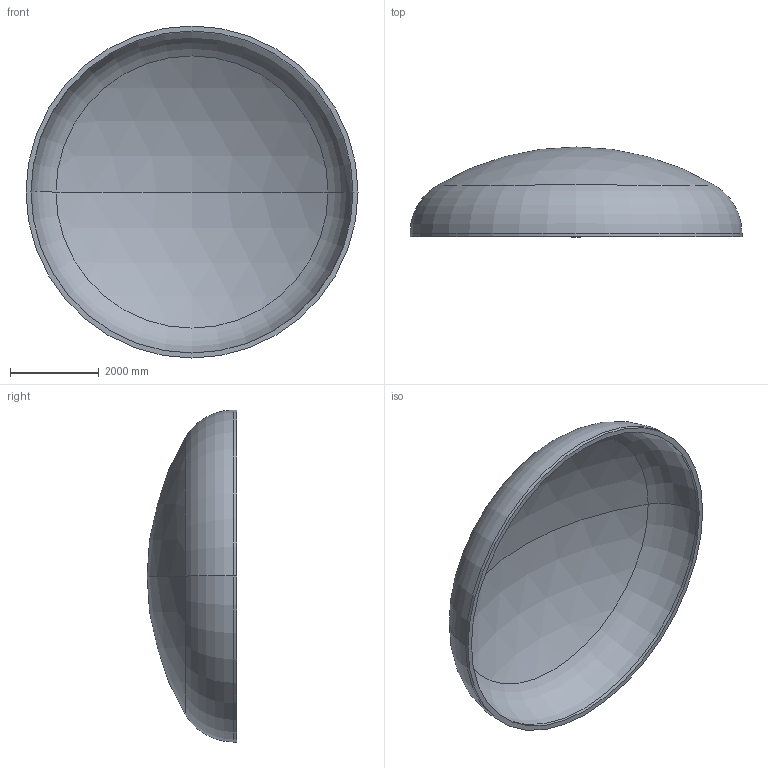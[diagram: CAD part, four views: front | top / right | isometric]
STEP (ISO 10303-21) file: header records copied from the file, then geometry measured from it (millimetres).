
FILE_DESCRIPTION (( 'STEP AP203' ), '1' );
FILE_NAME ('DIN 28013 Korbbogenform_-_Boden DIN 28013 - 7500 x 75 - I - s=112.step', '2016-07-04T10:57:33', ( '' ), ( '' ), 'SwSTEP 2.0', 'SolidWorks 2013', '' );
FILE_SCHEMA (( 'CONFIG_CONTROL_DESIGN' ));
Length unit declared in the file: millimetre
Products named in the file (1): DIN 28013 Korbbogenform_-_Boden DIN 28013 - 7500 x 75 - I - s=112
Bounding box: 7500 x 2026.62 x 7500 mm (x, y, z)
Volume: 6914059148.6 mm3; surface area: 126091096.4 mm2
Topology: 1 solids, 1 shells, 13 faces, 24 edges, 14 vertices
Faces by surface type: torus 4, cylinder 4, sphere 4, plane 1
Entity records: 407 total; most frequent: DIRECTION 72, CARTESIAN_POINT 52, ORIENTED_EDGE 48, AXIS2_PLACEMENT_3D 34, EDGE_CURVE 24, CIRCLE 20, EDGE_LOOP 14, VERTEX_POINT 14
